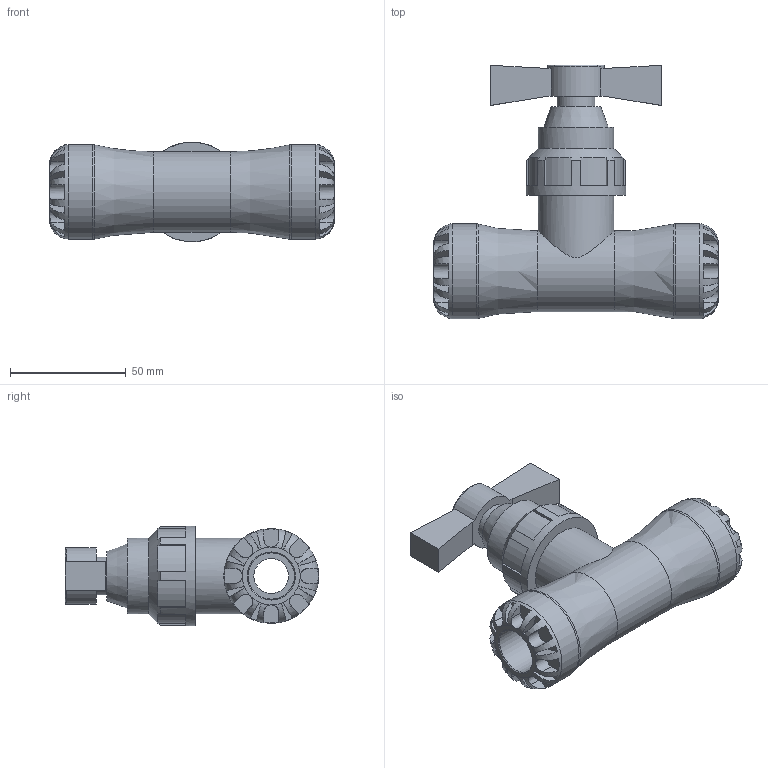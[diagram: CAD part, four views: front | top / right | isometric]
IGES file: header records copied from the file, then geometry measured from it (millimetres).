
Global section: file name: 34100020.ipt; native system: Autodesk Inventor 2015; preprocessor: unknown; author: KIM; date: 20170212.120055; units: millimetre
Bounding box: 123 x 109.5 x 43.03 mm (x, y, z)
Volume: 165561 mm3; surface area: 37202.4 mm2
Topology: 1 solids, 1 shells, 205 faces, 546 edges, 349 vertices
Faces by surface type: plane 143, cylinder 32, revolution 28, cone 2
Full cylindrical faces by diameter (mm): 16.4 x1, 24.6 x1, 32.8 x2, 34.85 x1, 41 x2, 43.05 x1
